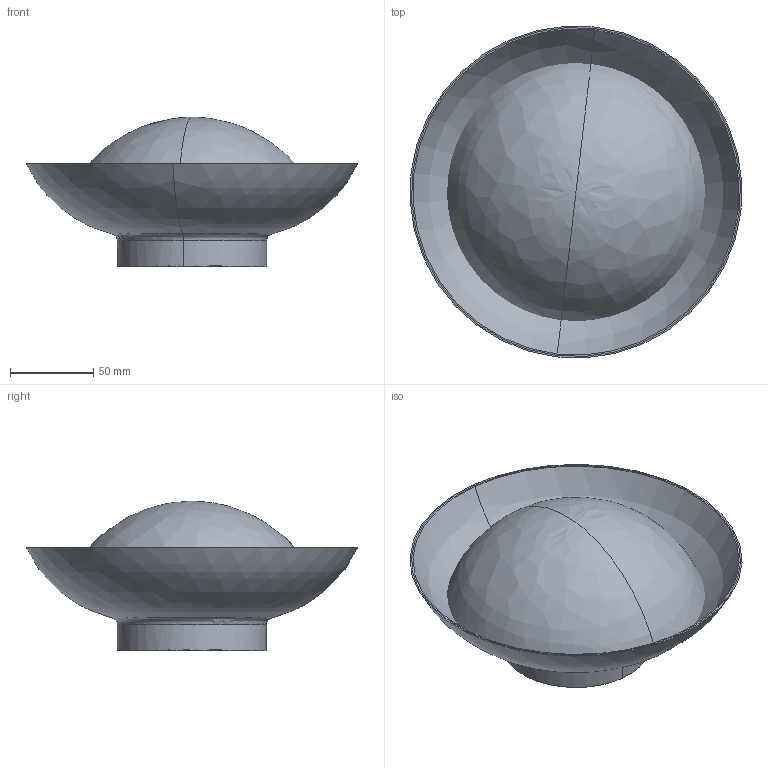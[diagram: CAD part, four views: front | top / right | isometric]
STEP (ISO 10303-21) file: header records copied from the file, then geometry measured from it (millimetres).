
FILE_DESCRIPTION(/* description */ (''),/* implementation_level */ '2;1');
FILE_NAME(/* name */ 'C:\Users\francosartori\Documents\Modelos\01_Digitalizados\0_SIDE\03_Publicación\62134.stp',/* time_stamp */ '2020-06-18T14:53:19+02:00',/* author */ ('FrancoSartori'),/* organization */ (''),/* preprocessor_version */ 'ST-DEVELOPER v18.1',/* originating_system */ 'AutoCAD Mechanical',/* authorisation */ '');
FILE_SCHEMA (('AUTOMOTIVE_DESIGN { 1 0 10303 214 3 1 1 }'));
Length unit declared in the file: millimetre
Products named in the file (2): Product; 62132_62133_62134_62135_lamp - SIDE Lamp-469024-_3D_
Assembly tree (1 placements, depth 2):
  Product
    62132_62133_62134_62135_lamp - SIDE Lamp-469024-_3D_
Bounding box: 199.65 x 199.65 x 90 mm (x, y, z)
Volume: 107356.5 mm3; surface area: 188146.8 mm2
Topology: 3 solids, 3 shells, 32 faces, 62 edges, 30 vertices
Faces by surface type: bspline 12, plane 10, cylinder 4, torus 4, cone 2
Entity records: 2328 total; most frequent: CARTESIAN_POINT 1715, ORIENTED_EDGE 116, DIRECTION 108, EDGE_CURVE 58, AXIS2_PLACEMENT_3D 47, FACE_OUTER_BOUND 32, EDGE_LOOP 32, ADVANCED_FACE 32
